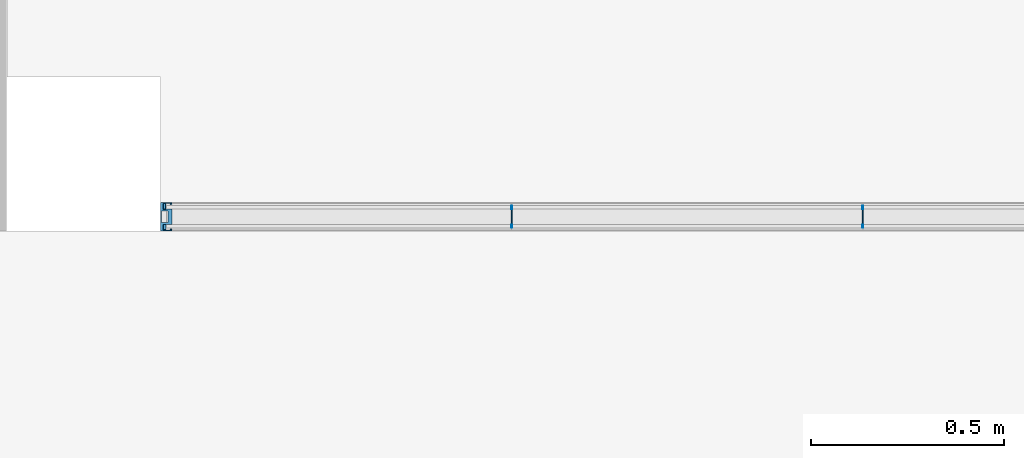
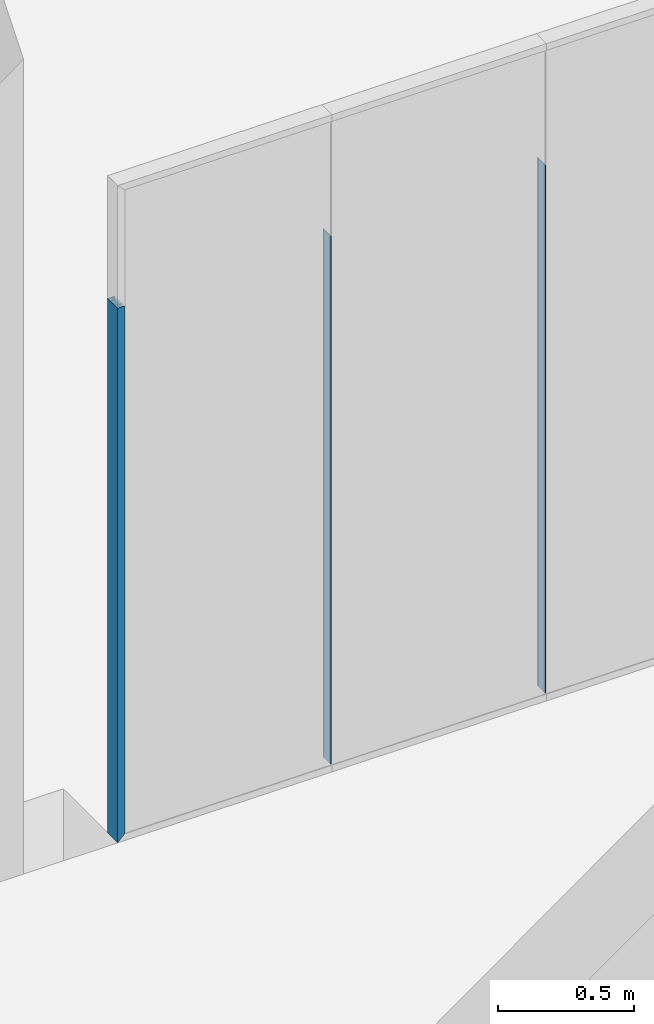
# One storey, part 18 of 62: 6 building element parts, 4 elements without a shape of their own.
"""IFC2X3 building model written with IfcOpenShell, lengths in millimetres."""

from ifc_helpers import new_model, entity, si_unit, converted_unit, derived_unit, money_unit, direction, frame, origin_with_axes, place, context, subcontext, project, spatial, faceted_brep, source, transform, mapped, material, type_object, element, aggregate, save


model = new_model("IFC2X3")

# Units and contexts
model_context = context("Model", 3, precision=0.01, world=origin_with_axes(), true_north=direction((0.0, 1.0)))
body_context = subcontext(model_context, "Body", "Model", "MODEL_VIEW")
ifc_project = project(units=[si_unit("LENGTHUNIT", "METRE", prefix="MILLI"), si_unit("AREAUNIT", "SQUARE_METRE"), si_unit("VOLUMEUNIT", "CUBIC_METRE"), converted_unit("PLANEANGLEUNIT", "DEGREE", entity("IfcPlaneAngleMeasure", 0.0174532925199), si_unit("PLANEANGLEUNIT", "RADIAN"), dimensions=[0, 0, 0, 0, 0, 0, 0]), si_unit("SOLIDANGLEUNIT", "STERADIAN"), money_unit("EUR"), converted_unit("TIMEUNIT", "Year", entity("IfcTimeMeasure", 31556926.0), si_unit("TIMEUNIT", "SECOND"), dimensions=[0, 0, 1, 0, 0, 0, 0]), si_unit("MASSUNIT", "GRAM", prefix="KILO"), si_unit("THERMODYNAMICTEMPERATUREUNIT", "DEGREE_CELSIUS"), si_unit("LUMINOUSINTENSITYUNIT", "LUMEN"), si_unit("ENERGYUNIT", "JOULE", prefix="MEGA"), derived_unit("THERMALCONDUCTANCEUNIT", [(si_unit("POWERUNIT", "WATT"), 1), (si_unit("LENGTHUNIT", "METRE"), -1), (si_unit("THERMODYNAMICTEMPERATUREUNIT", "KELVIN"), -1)]), derived_unit("SPECIFICHEATCAPACITYUNIT", [(si_unit("ENERGYUNIT", "JOULE"), 1), (si_unit("MASSUNIT", "GRAM", prefix="KILO"), -1), (si_unit("THERMODYNAMICTEMPERATUREUNIT", "KELVIN"), -1)]), derived_unit("MASSDENSITYUNIT", [(si_unit("MASSUNIT", "GRAM", prefix="KILO"), 1), (si_unit("VOLUMEUNIT", "CUBIC_METRE"), -1)])], contexts=[model_context])

# Site, building, storey
site_placement = place(None, origin_with_axes())
site = spatial("IfcSite", under=ifc_project, at=site_placement, Name="Puškini 31, Narva", CompositionType="ELEMENT")
building_placement = place(site_placement, origin_with_axes())
building = spatial("IfcBuilding", under=site, at=building_placement, Name="Narva Riigigümnaasium", CompositionType="ELEMENT")
storey_placement = place(building_placement, frame((0.0, 0.0, 660.0), z_axis=(0.0, 0.0, 1.0), x_axis=(1.0, 0.0, 0.0)))
storey = spatial("IfcBuildingStorey", under=building, at=storey_placement, Name="2.korrus +0.66", CompositionType="ELEMENT", Elevation=660.0)

# Curtain wall, members, building element parts
curtain_wall_type = type_object("IfcCurtainWallType", Name="Curtain Wall Type", PredefinedType="NOTDEFINED")
curtain_wall_placement = place(storey_placement, frame((41241.6, 223837.000007, -1.99739158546e-06), z_axis=(0.0, 0.0, 1.0), x_axis=(1.0, 0.0, 0.0)))
curtain_wall = element("IfcCurtainWall", 1, at=curtain_wall_placement, inside=storey, type_object=curtain_wall_type, Name="G-SKLF-53")
member_type_1 = type_object("IfcMemberType", Name="Boundary Frame 30 x 37", PredefinedType="MULLION")
member_1_placement = place(curtain_wall_placement, frame((-3641.6, 0.0, 0.0), z_axis=(0.0, 0.0, 1.0), x_axis=(-1.0, 0.0, 0.0)))
member_1 = element("IfcMember", 2, at=member_1_placement, type_object=member_type_1, Name="G-SKLF-94-raam", ObjectType="MULLION")
ifc_material_1 = material(Name="Klaasvill")
shared_shape_1 = source(origin_with_axes(), body_context, "Body", "Brep", [
    faceted_brep([(13.8499999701, 20.000000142, 13.8500005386), (13.8499999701, 20.000000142, 2400.00003102), (7.49999990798, 20.000000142, 2400.00003102), (7.49999990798, 20.000000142, 7.5000002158), (13.8499999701, 34.0161444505, 13.8500005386), (13.8499999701, 34.0161444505, 2400.00003102), (7.49999990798, 34.0161444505, 2400.00003102), (7.49999990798, 34.0161444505, 7.5000002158)], [[[0, 1, 2, 3]], [[4, 5, 1, 0]], [[2, 1, 5, 6]], [[3, 2, 6, 7]], [[3, 7, 4, 0]], [[7, 6, 5, 4]]]),
    faceted_brep([(25.004489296, 32.0307503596, 25.0044903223), (25.004489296, 32.0307503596, 2400.00003102), (24.987414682, 34.0161444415, 2400.00003102), (24.987414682, 34.0161444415, 24.9874157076), (25.742237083, 31.2930025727, 25.7422381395), (25.742237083, 31.2930025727, 2400.00003102), (26.7500193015, 31.0229681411, 2400.00003102), (27.75780152, 31.2930025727, 2400.00003102), (28.4955493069, 32.0307503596, 2400.00003102), (28.7655837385, 33.0385325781, 2400.00003102), (28.5126239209, 34.0161444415, 2400.00003102), (28.5126239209, 34.0161444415, 28.5126250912), (28.7655837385, 33.0385325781, 28.7655849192), (28.4955493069, 32.0307503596, 28.4955504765), (27.75780152, 31.2930025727, 27.7578026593), (26.7500193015, 31.0229681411, 26.7500203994)], [[[0, 1, 2, 3]], [[4, 5, 1, 0]], [[2, 1, 5, 6, 7, 8, 9, 10]], [[3, 2, 10, 11]], [[3, 11, 12, 13, 14, 15, 4, 0]], [[15, 6, 5, 4]], [[14, 7, 6, 15]], [[13, 8, 7, 14]], [[12, 9, 8, 13]], [[11, 10, 9, 12]]]),
    faceted_brep([(7.49999990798, -34.0161445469, 7.5000002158), (7.49999990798, -34.0161445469, 2400.00003102), (7.49999990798, -19.9999997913, 2400.00003102), (7.49999990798, -19.9999997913, 7.5000002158), (13.8499999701, -34.0161445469, 13.8500005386), (13.8499999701, -34.0161445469, 2400.00003102), (13.8499999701, -19.9999997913, 2400.00003102), (13.8499999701, -19.9999997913, 13.8500005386)], [[[0, 1, 2, 3]], [[4, 5, 1, 0]], [[2, 1, 5, 6]], [[3, 2, 6, 7]], [[3, 7, 4, 0]], [[7, 6, 5, 4]]]),
    faceted_brep([(24.987414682, -34.0161444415, 24.9874157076), (24.987414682, -34.0161444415, 2400.00003102), (25.004489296, -32.0307503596, 2400.00003102), (25.004489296, -32.0307503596, 25.0044903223), (28.5126239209, -34.0161444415, 28.5126250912), (28.5126239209, -34.0161444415, 2400.00003102), (28.7655837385, -33.0385325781, 2400.00003102), (28.4955493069, -32.0307503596, 2400.00003102), (27.75780152, -31.2930025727, 2400.00003102), (26.7500193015, -31.0229681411, 2400.00003102), (25.742237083, -31.2930025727, 2400.00003102), (25.742237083, -31.2930025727, 25.7422381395), (26.7500193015, -31.0229681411, 26.7500203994), (27.75780152, -31.2930025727, 27.7578026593), (28.4955493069, -32.0307503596, 28.4955504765), (28.7655837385, -33.0385325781, 28.7655849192)], [[[0, 1, 2, 3]], [[4, 5, 1, 0]], [[2, 1, 5, 6, 7, 8, 9, 10]], [[3, 2, 10, 11]], [[3, 11, 12, 13, 14, 15, 4, 0]], [[15, 6, 5, 4]], [[14, 7, 6, 15]], [[13, 8, 7, 14]], [[12, 9, 8, 13]], [[11, 10, 9, 12]]]),
])
building_element_part_1_placement = place(member_1_placement, origin_with_axes())
building_element_part_1 = element("IfcBuildingElementPart", 3, at=building_element_part_1_placement, material=ifc_material_1, Name="Klaasvill", context=body_context, shape_type="MappedRepresentation", body=[
    mapped(shared_shape_1, transform((0.0, 0.0, 0.0), x_axis=(-1.0, 0.0, 0.0), y_axis=(0.0, -1.0, 0.0), z_axis=(0.0, 0.0, 1.0))),
])
ifc_material_2 = material(Name="Teras RAL7012")
shared_shape_2 = source(origin_with_axes(), body_context, "Body", "Brep", [
    faceted_brep([(29.5999996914, -17.0000000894, 29.6000009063), (29.5999996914, -17.0000000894, 2400.00003102), (0.0, -17.0000000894, 2400.00003102), (0.0, -17.0000000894, 0.0), (29.5999996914, 17.0000000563, 29.6000009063), (29.5999996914, 17.0000000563, 2400.00003102), (0.0, 17.0000000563, 2400.00003102), (1.9999999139, 15.0000001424, 2400.00003102), (18.7999996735, 15.0000001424, 2400.00003102), (18.7999996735, -15.0000001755, 2400.00003102), (1.9999999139, -15.0000001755, 2400.00003102), (0.0, 17.0000000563, 0.0), (1.9999999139, 15.0000001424, 1.99999999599), (1.9999999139, -15.0000001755, 1.99999999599), (18.7999996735, -15.0000001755, 18.8000004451), (18.7999996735, 15.0000001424, 18.8000004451)], [[[0, 1, 2, 3]], [[4, 5, 1, 0]], [[2, 1, 5, 6], [7, 8, 9, 10]], [[3, 2, 6, 11]], [[3, 11, 4, 0], [12, 13, 14, 15]], [[11, 6, 5, 4]], [[15, 8, 7, 12]], [[14, 9, 8, 15]], [[13, 10, 9, 14]], [[12, 7, 10, 13]]]),
    faceted_brep([(29.5999996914, 17.0000000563, 29.6000009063), (29.5999996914, 17.0000000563, 2400.00003102), (0.0, 17.0, 2400.00003102), (0.0, 17.0, 0.0), (30.0000193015, 17.0, 30.0000205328), (30.0000193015, 17.0, 2400.00003102), (30.0000193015, 20.0, 2400.00003102), (13.8499999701, 20.000000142, 2400.00003102), (7.49999999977, 20.0, 2400.00003102), (7.49999999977, 34.0161444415, 2400.00003102), (13.8499999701, 34.0161444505, 2400.00003102), (24.987414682, 34.0161444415, 2400.00003102), (28.5126239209, 34.0161444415, 2400.00003102), (30.0000193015, 34.0161444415, 2400.00003102), (30.0000193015, 37.0, 2400.00003102), (0.0, 37.0, 2400.00003102), (0.0, 37.0, 0.0), (30.0000193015, 37.0, 30.0000205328), (30.0000193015, 34.0161444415, 30.0000205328), (28.5126239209, 34.0161444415, 28.5126250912), (24.987414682, 34.0161444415, 24.9874157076), (13.8499999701, 34.0161444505, 13.8500005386), (7.49999999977, 34.0161444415, 7.50000030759), (7.49999999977, 20.0, 7.50000030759), (13.8499999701, 20.000000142, 13.8500005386), (30.0000193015, 20.0, 30.0000205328)], [[[0, 1, 2, 3]], [[4, 5, 1, 0]], [[2, 1, 5, 6, 7, 8, 9, 10, 11, 12, 13, 14, 15]], [[3, 2, 15, 16]], [[3, 16, 17, 18, 19, 20, 21, 22, 23, 24, 25, 4, 0]], [[25, 6, 5, 4]], [[24, 7, 6, 25]], [[23, 8, 7, 24]], [[22, 9, 8, 23]], [[21, 10, 9, 22]], [[20, 11, 10, 21]], [[19, 12, 11, 20]], [[18, 13, 12, 19]], [[17, 14, 13, 18]], [[16, 15, 14, 17]]]),
    faceted_brep([(0.0, -37.0, 0.0), (0.0, -37.0, 2400.00003102), (0.0, -17.0, 2400.00003102), (0.0, -17.0, 0.0), (30.0000193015, -37.0, 30.0000205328), (30.0000193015, -37.0, 2400.00003102), (30.0000193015, -34.0161444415, 2400.00003102), (28.5126239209, -34.0161444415, 2400.00003102), (24.987414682, -34.0161444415, 2400.00003102), (13.8499999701, -34.0161445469, 2400.00003102), (7.49999999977, -34.0161444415, 2400.00003102), (7.49999999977, -20.0, 2400.00003102), (13.8499999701, -19.9999997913, 2400.00003102), (30.0000193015, -20.0, 2400.00003102), (30.0000193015, -17.0, 2400.00003102), (29.5999996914, -17.0000000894, 2400.00003102), (29.5999996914, -17.0000000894, 29.6000009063), (30.0000193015, -17.0, 30.0000205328), (30.0000193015, -20.0, 30.0000205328), (13.8499999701, -19.9999997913, 13.8500005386), (7.49999999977, -20.0, 7.50000030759), (7.49999999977, -34.0161444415, 7.50000030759), (13.8499999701, -34.0161445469, 13.8500005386), (24.987414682, -34.0161444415, 24.9874157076), (28.5126239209, -34.0161444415, 28.5126250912), (30.0000193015, -34.0161444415, 30.0000205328)], [[[0, 1, 2, 3]], [[4, 5, 1, 0]], [[2, 1, 5, 6, 7, 8, 9, 10, 11, 12, 13, 14, 15]], [[3, 2, 15, 16]], [[3, 16, 17, 18, 19, 20, 21, 22, 23, 24, 25, 4, 0]], [[25, 6, 5, 4]], [[24, 7, 6, 25]], [[23, 8, 7, 24]], [[22, 9, 8, 23]], [[21, 10, 9, 22]], [[20, 11, 10, 21]], [[19, 12, 11, 20]], [[18, 13, 12, 19]], [[17, 14, 13, 18]], [[16, 15, 14, 17]]]),
])
building_element_part_2_placement = place(member_1_placement, origin_with_axes())
building_element_part_2 = element("IfcBuildingElementPart", 4, at=building_element_part_2_placement, material=ifc_material_2, Name="Teras RAL7012", context=body_context, shape_type="MappedRepresentation", body=[
    mapped(shared_shape_2, transform((0.0, 0.0, 0.0), x_axis=(-1.0, 0.0, 0.0), y_axis=(0.0, -1.0, 0.0), z_axis=(0.0, 0.0, 1.0))),
])
aggregate(member_1, [building_element_part_1, building_element_part_2])
member_type_2 = type_object("IfcMemberType", Name="3 x -35", PredefinedType="MULLION")
member_2_placement = place(curtain_wall_placement, frame((-2731.2, 0.0, 0.0), z_axis=(0.0, 0.0, 1.0), x_axis=(-1.0, 0.0, 0.0)))
member_2 = element("IfcMember", 5, at=member_2_placement, type_object=member_type_2, Name="G-SKLF-53-raam", ObjectType="MULLION")
ifc_material_3 = material(Name="Klaas")
shared_shape_3 = source(origin_with_axes(), body_context, "Body", "Brep", [
    faceted_brep([(-1.5000138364, 20.0064497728, 30.0000193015), (1.4999861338, 20.0064497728, 30.0000193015), (1.4999861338, 20.0064497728, 2400.0), (-1.5000138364, 20.0064497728, 2400.0), (-1.5000138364, 29.0064496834, 30.0000193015), (1.4999861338, 29.0064496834, 30.0000193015), (1.4999861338, 29.0064496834, 2400.0), (-1.5000138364, 29.0064496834, 2400.0)], [[[0, 1, 2, 3]], [[1, 0, 4, 5]], [[1, 5, 6, 2]], [[2, 6, 7, 3]], [[4, 0, 3, 7]], [[5, 4, 7, 6]]]),
    faceted_brep([(1.4999861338, -28.9935503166, 30.0000193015), (1.4999861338, -19.993550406, 30.0000193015), (1.4999861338, -19.993550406, 2400.0), (1.4999861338, -28.9935503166, 2400.0), (-1.5000138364, -28.9935503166, 30.0000193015), (-1.5000138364, -19.993550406, 30.0000193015), (-1.5000138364, -19.993550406, 2400.0), (-1.5000138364, -28.9935503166, 2400.0)], [[[0, 1, 2, 3]], [[1, 0, 4, 5]], [[1, 5, 6, 2]], [[2, 6, 7, 3]], [[4, 0, 3, 7]], [[5, 4, 7, 6]]]),
])
building_element_part_3_placement = place(member_2_placement, origin_with_axes())
building_element_part_3 = element("IfcBuildingElementPart", 6, at=building_element_part_3_placement, material=ifc_material_3, Name="Klaas", context=body_context, shape_type="MappedRepresentation", body=[
    mapped(shared_shape_3, transform((0.0, 0.0, 0.0), x_axis=(-1.0, 0.0, 0.0), y_axis=(0.0, -1.0, 0.0), z_axis=(0.0, 0.0, 1.0))),
])
member_3_placement = place(curtain_wall_placement, frame((-1820.8, 0.0, 0.0), z_axis=(0.0, 0.0, 1.0), x_axis=(-1.0, 0.0, 0.0)))
member_3 = element("IfcMember", 7, at=member_3_placement, type_object=member_type_2, Name="G-SKLF-53-raam", ObjectType="MULLION")
aggregate(curtain_wall, [member_1, member_2, member_3])
building_element_part_4_placement = place(member_3_placement, origin_with_axes())
building_element_part_4 = element("IfcBuildingElementPart", 8, at=building_element_part_4_placement, material=ifc_material_3, Name="Klaas", context=body_context, shape_type="MappedRepresentation", body=[
    mapped(shared_shape_3, transform((0.0, 0.0, 0.0), x_axis=(-1.0, 0.0, 0.0), y_axis=(0.0, -1.0, 0.0), z_axis=(0.0, 0.0, 1.0))),
])
ifc_material_4 = material(Name="VKR-06_Õhkvahe")
shared_shape_4 = source(origin_with_axes(), body_context, "Body", "Brep", [
    faceted_brep([(1.4999861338, -19.9935503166, 30.0000193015), (1.4999861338, 20.0064496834, 30.0000193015), (1.4999861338, 20.0064496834, 2400.0), (1.4999861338, -19.9935503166, 2400.0), (-1.5000138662, -19.9935503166, 30.0000193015), (-1.5000138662, 20.0064496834, 30.0000193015), (-1.5000138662, 20.0064496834, 2400.0), (-1.5000138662, -19.9935503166, 2400.0)], [[[0, 1, 2, 3]], [[1, 0, 4, 5]], [[1, 5, 6, 2]], [[2, 6, 7, 3]], [[4, 0, 3, 7]], [[5, 4, 7, 6]]]),
])
building_element_part_5_placement = place(member_2_placement, origin_with_axes())
building_element_part_5 = element("IfcBuildingElementPart", 9, at=building_element_part_5_placement, material=ifc_material_4, Name="VKR-06_Õhkvahe", context=body_context, shape_type="MappedRepresentation", body=[
    mapped(shared_shape_4, transform((0.0, 0.0, 0.0), x_axis=(-1.0, 0.0, 0.0), y_axis=(0.0, -1.0, 0.0), z_axis=(0.0, 0.0, 1.0))),
])
aggregate(member_2, [building_element_part_3, building_element_part_5])
building_element_part_6_placement = place(member_3_placement, origin_with_axes())
building_element_part_6 = element("IfcBuildingElementPart", 10, at=building_element_part_6_placement, material=ifc_material_4, Name="VKR-06_Õhkvahe", context=body_context, shape_type="MappedRepresentation", body=[
    mapped(shared_shape_4, transform((0.0, 0.0, 0.0), x_axis=(-1.0, 0.0, 0.0), y_axis=(0.0, -1.0, 0.0), z_axis=(0.0, 0.0, 1.0))),
])
aggregate(member_3, [building_element_part_4, building_element_part_6])

save(model, "model.ifc")
